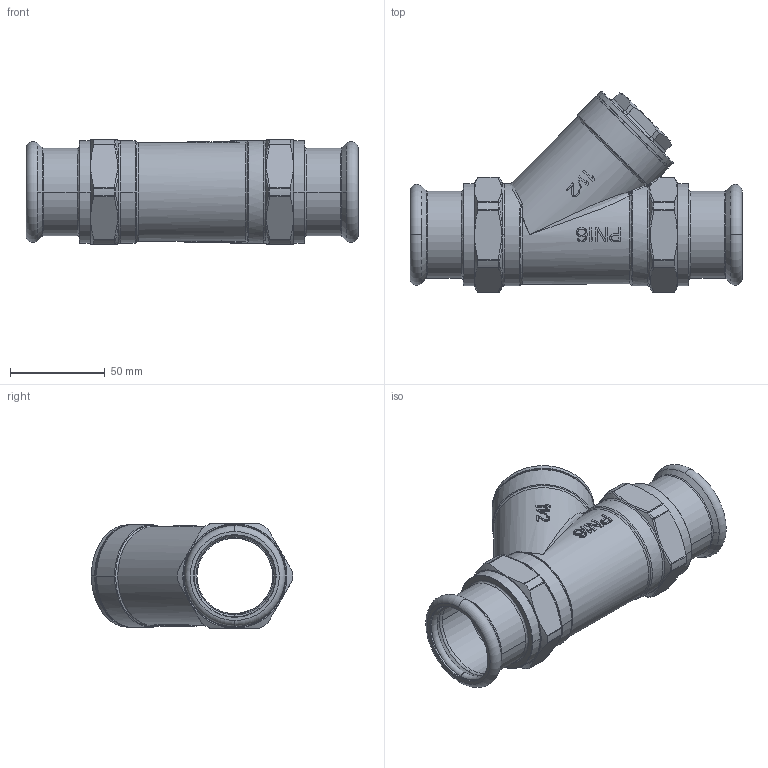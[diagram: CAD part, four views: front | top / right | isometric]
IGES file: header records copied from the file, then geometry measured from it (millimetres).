
Global section: file name: No Iges File Name specified; native system: AutoDesk Inventor R12.0; preprocessor: AutoDesk Inventor Iges Exporter R12.0; date: 20120203.151611; units: millimetre
Bounding box: 175.2 x 106.19 x 55 mm (x, y, z)
Volume: 138471.2 mm3; surface area: 78123 mm2
Topology: 1 solids, 2 shells, 704 faces, 1787 edges, 1116 vertices
Faces by surface type: bspline 261, plane 158, cylinder 99, revolution 92, cone 46, torus 26, sphere 22
